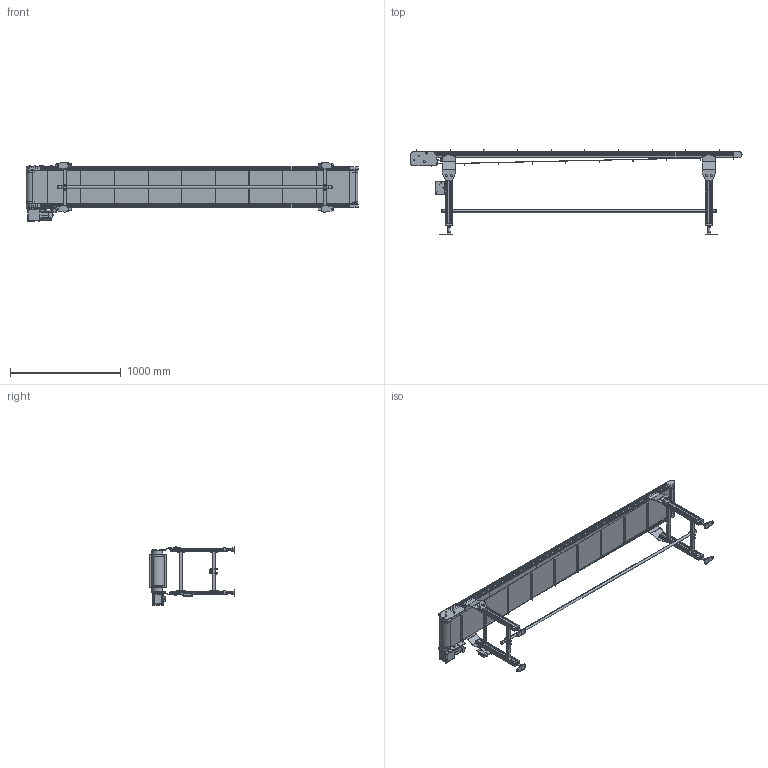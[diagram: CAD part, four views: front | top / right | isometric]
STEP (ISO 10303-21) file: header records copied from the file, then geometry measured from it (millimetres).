
FILE_DESCRIPTION( (''), '2;1');
FILE_NAME ('MB2S-HS-309-300-300-R-K-100-O.stp','2025-02-17T11:53:16',(''),(''),'spGate 20.6.2 (****-****-****-****)','','');
FILE_SCHEMA (('AUTOMOTIVE_DESIGN'));
Length unit declared in the file: millimetre
Products named in the file (47): NewModel; MB2S-HS-300-3000-R; TEMP_X_T-prt0; TEMP_X_T-prt1; TEMP_X_T-prt2; TEMP_X_T-prt3; TEMP_X_T-prt4; TEMP_X_T-prt5; TEMP_X_T-prt6; TEMP_X_T-prt7; TEMP_X_T-prt8; TEMP_X_T-prt9; TEMP_X_T-prt10; TEMP_X_T-prt11; TEMP_X_T-prt12; TEMP_X_T-prt13; TEMP_X_T-prt14; TEMP_X_T-prt15; TEMP_X_T-prt16; TEMP_X_T-prt17; TEMP_X_T-prt18; TEMP_X_T-prt19; TEMP_X_T-prt20; TEMP_X_T-prt21; TEMP_X_T-prt22; TEMP_X_T-prt23; TEMP_X_T-prt24; TEMP_X_T-prt25; TEMP_X_T-prt26; TEMP_X_T-prt27; TEMP_X_T-prt28; TEMP_X_T-prt29; TEMP_X_T-prt30; TEMP_X_T-prt31; TEMP_X_T-prt32; TEMP_X_T-prt33; TEMP_X_T-prt34; TEMP_X_T-prt35; TEMP_X_T-prt36; TEMP_X_T-prt37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
Assembly tree (46 placements, depth 3):
  NewModel
    MB2S-HS-300-3000-R
      TEMP_X_T-prt0
      TEMP_X_T-prt1
      TEMP_X_T-prt2
      TEMP_X_T-prt3
      TEMP_X_T-prt4
      TEMP_X_T-prt5
      TEMP_X_T-prt6
      TEMP_X_T-prt7
      TEMP_X_T-prt8
      TEMP_X_T-prt9
      TEMP_X_T-prt10
      TEMP_X_T-prt11
      TEMP_X_T-prt12
      TEMP_X_T-prt13
      TEMP_X_T-prt14
      TEMP_X_T-prt15
      TEMP_X_T-prt16
      TEMP_X_T-prt17
      TEMP_X_T-prt18
      TEMP_X_T-prt19
      TEMP_X_T-prt20
      TEMP_X_T-prt21
      TEMP_X_T-prt22
      TEMP_X_T-prt23
      TEMP_X_T-prt24
      TEMP_X_T-prt25
      TEMP_X_T-prt26
      TEMP_X_T-prt27
      TEMP_X_T-prt28
      TEMP_X_T-prt29
      TEMP_X_T-prt30
      TEMP_X_T-prt31
      TEMP_X_T-prt32
      TEMP_X_T-prt33
      TEMP_X_T-prt34
      TEMP_X_T-prt35
      TEMP_X_T-prt36
      TEMP_X_T-prt37
      TEMP_X_T-prt38
      TEMP_X_T-prt39
      TEMP_X_T-prt40
      TEMP_X_T-prt41
      TEMP_X_T-prt42
      TEMP_X_T-prt43
      TEMP_X_T-prt44
Bounding box: 3000.7 x 772.49 x 536.9 mm (x, y, z)
Volume: 20323205.4 mm3; surface area: 9485056.8 mm2
Topology: 45 solids, 45 shells, 2092 faces, 5244 edges, 3405 vertices
Faces by surface type: plane 1503, cylinder 486, bspline 95, sphere 8
Entity records: 106933 total; most frequent: CARTESIAN_POINT 13294, ORIENTED_EDGE 10464, DIRECTION 10028, COLOUR_RGB 7369, PRESENTATION_STYLE_ASSIGNMENT 7369, STYLED_ITEM 7369, EDGE_CURVE 5232, DRAUGHTING_PRE_DEFINED_CURVE_FONT 5232
